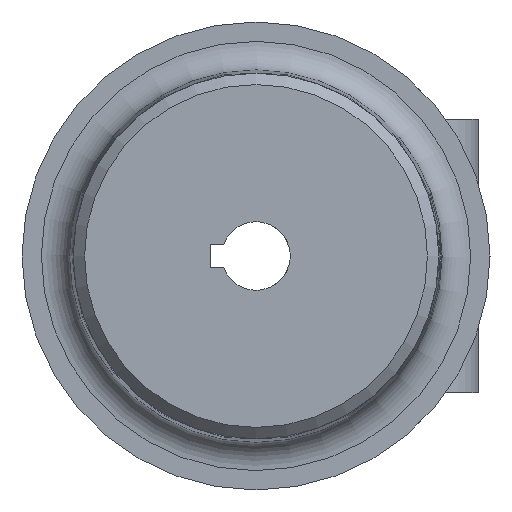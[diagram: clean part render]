
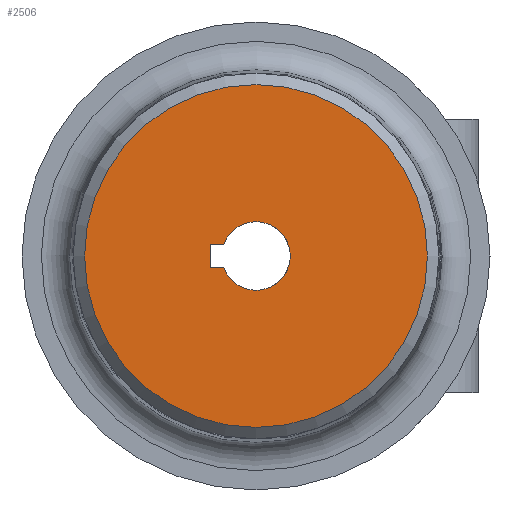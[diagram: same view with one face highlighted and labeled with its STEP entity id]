
A CAD part, left-side view. The second image highlights one B-rep face of the part: STEP entity #2506.
In plain terms, the highlighted planar face has unit normal (-1, 0, 0) as drawn and (0, 0, -1) by its records, which use the part's own axes.
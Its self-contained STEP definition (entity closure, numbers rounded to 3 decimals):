
#155=FACE_BOUND('',#527,.T.);
#213=PLANE('',#2949);
#354=FACE_OUTER_BOUND('',#526,.T.);
#526=EDGE_LOOP('',(#2308));
#527=EDGE_LOOP('',(#2309,#2310,#2311,#2312));
#747=CIRCLE('',#2893,3.);
#780=CIRCLE('',#2950,15.019);
#874=LINE('',#5493,#977);
#877=LINE('',#5499,#980);
#880=LINE('',#5505,#983);
#977=VECTOR('',#3536,10.);
#980=VECTOR('',#3541,10.);
#983=VECTOR('',#3546,10.);
#1191=VERTEX_POINT('',#5490);
#1192=VERTEX_POINT('',#5492);
#1194=VERTEX_POINT('',#5498);
#1196=VERTEX_POINT('',#5504);
#1231=VERTEX_POINT('',#5718);
#1534=EDGE_CURVE('',#1192,#1191,#874,.T.);
#1537=EDGE_CURVE('',#1194,#1192,#877,.T.);
#1540=EDGE_CURVE('',#1196,#1194,#880,.T.);
#1543=EDGE_CURVE('',#1191,#1196,#747,.T.);
#1594=EDGE_CURVE('',#1231,#1231,#780,.T.);
#2308=ORIENTED_EDGE('',*,*,#1594,.F.);
#2309=ORIENTED_EDGE('',*,*,#1540,.T.);
#2310=ORIENTED_EDGE('',*,*,#1537,.T.);
#2311=ORIENTED_EDGE('',*,*,#1534,.T.);
#2312=ORIENTED_EDGE('',*,*,#1543,.T.);
#2506=ADVANCED_FACE('',(#354,#155),#213,.T.);
#2893=AXIS2_PLACEMENT_3D('',#5509,#3552,#3553);
#2949=AXIS2_PLACEMENT_3D('',#5717,#3667,#3668);
#2950=AXIS2_PLACEMENT_3D('',#5719,#3669,#3670);
#3536=DIRECTION('',(0.,1.,0.));
#3541=DIRECTION('',(1.,0.,0.));
#3546=DIRECTION('',(0.,-1.,0.));
#3552=DIRECTION('center_axis',(0.,0.,
1.));
#3553=DIRECTION('ref_axis',(1.,0.,0.));
#3667=DIRECTION('center_axis',(0.,0.,
-1.));
#3668=DIRECTION('ref_axis',(0.,-1.,0.));
#3669=DIRECTION('center_axis',(0.,0.,
1.));
#3670=DIRECTION('ref_axis',(0.,-1.,0.));
#5490=CARTESIAN_POINT('',(1.,-2.828,-25.));
#5492=CARTESIAN_POINT('',(1.,-4.,-25.));
#5493=CARTESIAN_POINT('',(1.,-2.,-25.));
#5498=CARTESIAN_POINT('',(-1.,-4.,-25.));
#5499=CARTESIAN_POINT('',(-0.5,-4.,-25.));
#5504=CARTESIAN_POINT('',(-1.,-2.828,-25.));
#5505=CARTESIAN_POINT('',(-1.,-1.414,-25.));
#5509=CARTESIAN_POINT('Origin',(0.,0.,
-25.));
#5717=CARTESIAN_POINT('Origin',(0.,0.,
-25.));
#5718=CARTESIAN_POINT('',(0.,15.019,-25.));
#5719=CARTESIAN_POINT('Origin',(0.,0.,-25.));
